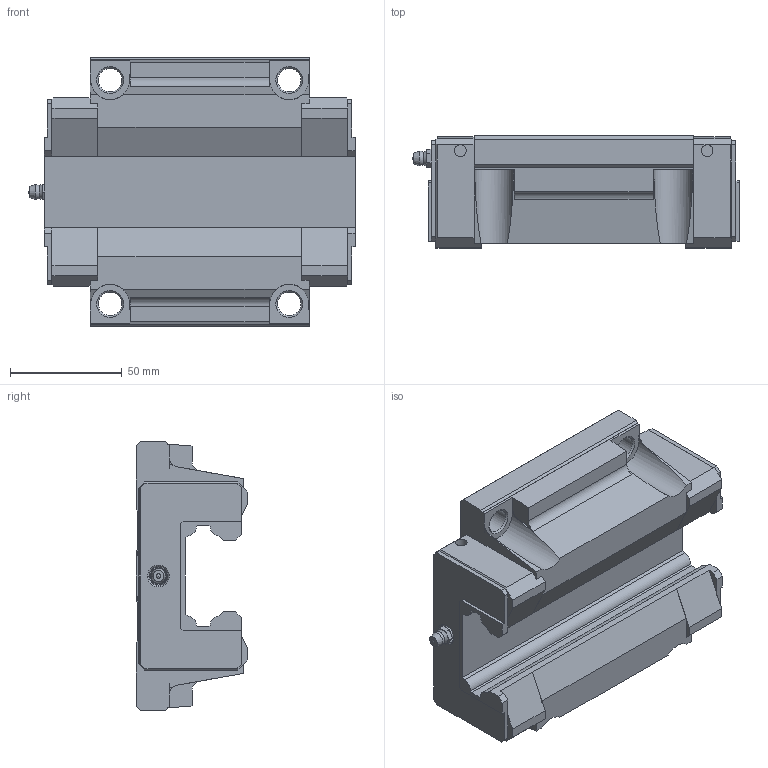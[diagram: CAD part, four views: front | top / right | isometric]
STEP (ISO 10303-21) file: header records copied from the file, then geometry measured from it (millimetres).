
FILE_DESCRIPTION(/* description */ ('STEP AP214'),/* implementation_level */ '2;1');
FILE_NAME(/* name */ 'HSR45C1SS(GK) BLOCK(B-PT1_81)',/* time_stamp */ '2023-05-26T08:47:05+02:00',/* author */ ('License CC BY-ND 4.0'),/* organization */ ('CADENAS'),/* preprocessor_version */ 'ST-DEVELOPER v19.3',/* originating_system */ 'PARTsolutions',/* authorisation */ ' ');
FILE_SCHEMA (('AUTOMOTIVE_DESIGN {1 0 10303 214 3 1 1}'));
Length unit declared in the file: millimetre
Products named in the file (3): HSR45C1SS(GK) BLOCK(B-PT1/81); hsr_ftht_A-M6F_grease_nipple_joint; HSR45CSSB-PT1/810 S
Assembly tree (2 placements, depth 2):
  HSR45C1SS(GK) BLOCK(B-PT1/81)
    hsr_ftht_A-M6F_grease_nipple_joint
    HSR45CSSB-PT1/810 S
Bounding box: 145.91 x 50 x 120 mm (x, y, z)
Volume: 481698.1 mm3; surface area: 61378.5 mm2
Topology: 2 solids, 2 shells, 220 faces, 614 edges, 401 vertices
Faces by surface type: plane 161, cylinder 33, cone 23, sphere 2, torus 1
Full cylindrical faces by diameter (mm): 5.2 x4, 6 x1, 10.2 x2, 10.5 x4
Entity records: 6785 total; most frequent: CARTESIAN_POINT 1269, ORIENTED_EDGE 1128, DIRECTION 1078, EDGE_CURVE 564, LINE 432, VECTOR 432, VERTEX_POINT 384, AXIS2_PLACEMENT_3D 323
